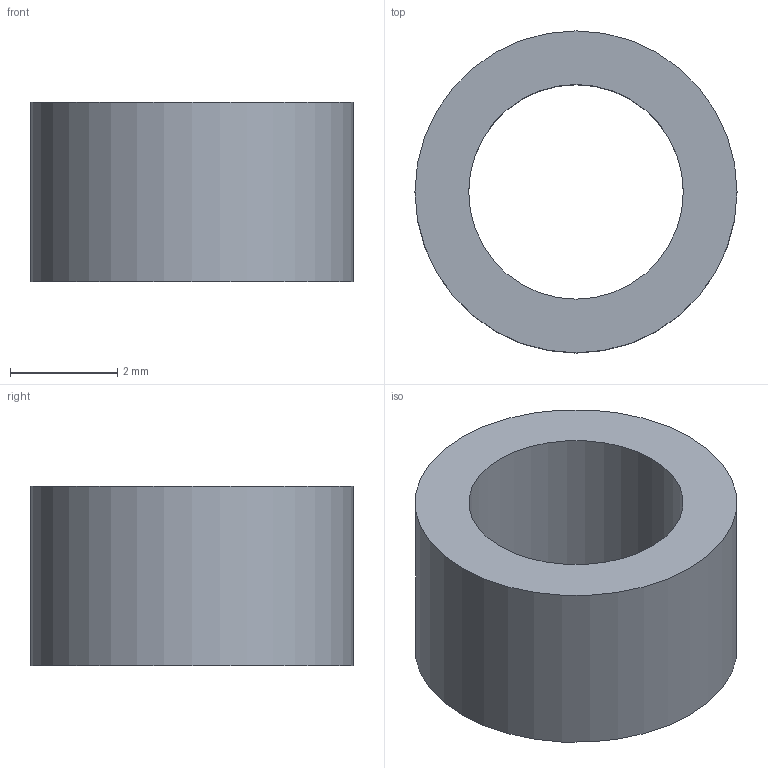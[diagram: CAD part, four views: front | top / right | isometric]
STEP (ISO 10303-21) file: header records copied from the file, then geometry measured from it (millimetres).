
FILE_DESCRIPTION(/* description */ ('Spacer'),/* implementation_level */ '2;1');
FILE_NAME(/* name */ 'Z:\Werkstatt Server\Projekte\Atlas\Entwicklung u. Konstruktion\Konstruktion\CAD Daten\ITkPixToolV2.0\Stencil Tool\ITPTv2.03.00.10.stp',/* time_stamp */ '2021-08-06T14:11:13+02:00',/* author */ ('Tim Kanngießer'),/* organization */ (''),/* preprocessor_version */ 'ST-DEVELOPER v18.1',/* originating_system */ 'Autodesk Inventor 2022',/* authorisation */ '');
FILE_SCHEMA (('AUTOMOTIVE_DESIGN { 1 0 10303 214 3 1 1 }'));
Length unit declared in the file: millimetre
Products named in the file (1): ITPTv2.03.00.10
Bounding box: 6 x 6 x 3.35 mm (x, y, z)
Volume: 52.6 mm3; surface area: 136.7 mm2
Topology: 1 solids, 1 shells, 4 faces, 6 edges, 4 vertices
Faces by surface type: cylinder 2, plane 2
Full cylindrical faces by diameter (mm): 4 x1, 6 x1
Entity records: 139 total; most frequent: DIRECTION 20, CARTESIAN_POINT 15, ORIENTED_EDGE 12, AXIS2_PLACEMENT_3D 9, EDGE_LOOP 6, EDGE_CURVE 6, FACE_OUTER_BOUND 4, CIRCLE 4
